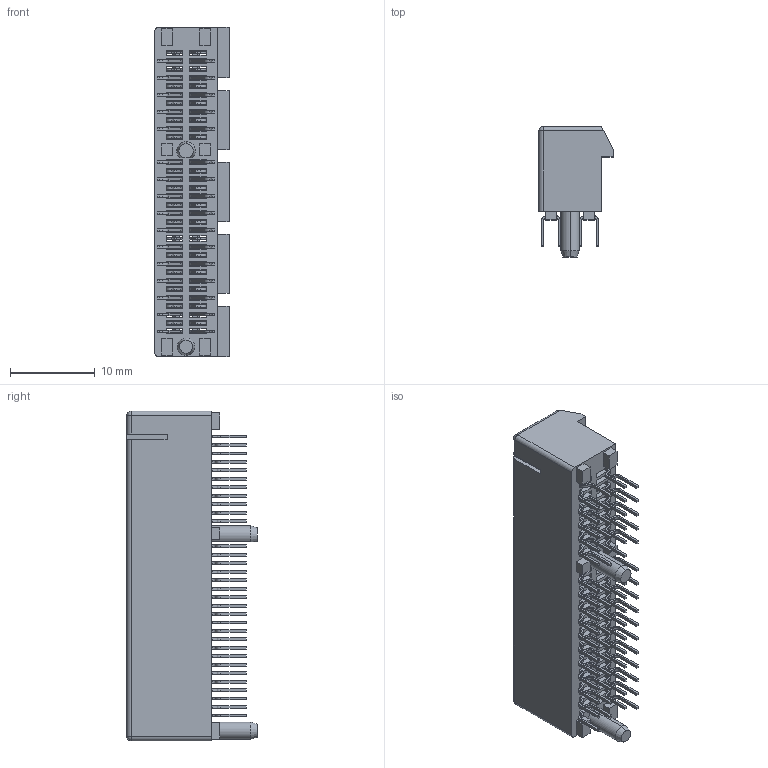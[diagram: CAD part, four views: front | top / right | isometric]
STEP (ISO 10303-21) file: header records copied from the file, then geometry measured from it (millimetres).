
FILE_DESCRIPTION (( 'STEP AP203' ), '1' );
FILE_NAME ('TE PCIe Express x4 (3.1mm Pins).STEP', '2015-01-12T00:38:29', ( '' ), ( '' ), 'SwSTEP 2.0', 'SolidWorks 2013', '' );
FILE_SCHEMA (( 'CONFIG_CONTROL_DESIGN' ));
Length unit declared in the file: millimetre
Products named in the file (4): PCIe Body_PCIe x4; Pins_Internal Pin (Long); Pins_External Pin (Long); TE PCIe Express x4 (3.1mm Pins)
Assembly tree (65 placements, depth 2):
  TE PCIe Express x4 (3.1mm Pins)
    PCIe Body_PCIe x4
    Pins_Internal Pin (Long)  x32
    Pins_External Pin (Long)  x32
Bounding box: 8.8 x 15.4 x 39 mm (x, y, z)
Volume: 2055.6 mm3; surface area: 5718.9 mm2
Topology: 65 solids, 65 shells, 2340 faces, 6959 edges, 4629 vertices
Faces by surface type: plane 1556, cylinder 778, cone 4, sphere 2
Entity records: 29347 total; most frequent: ORIENTED_EDGE 4986, CARTESIAN_POINT 4958, DIRECTION 4151, EDGE_CURVE 2493, LINE 2419, VECTOR 2419, VERTEX_POINT 1653, AXIS2_PLACEMENT_3D 866
